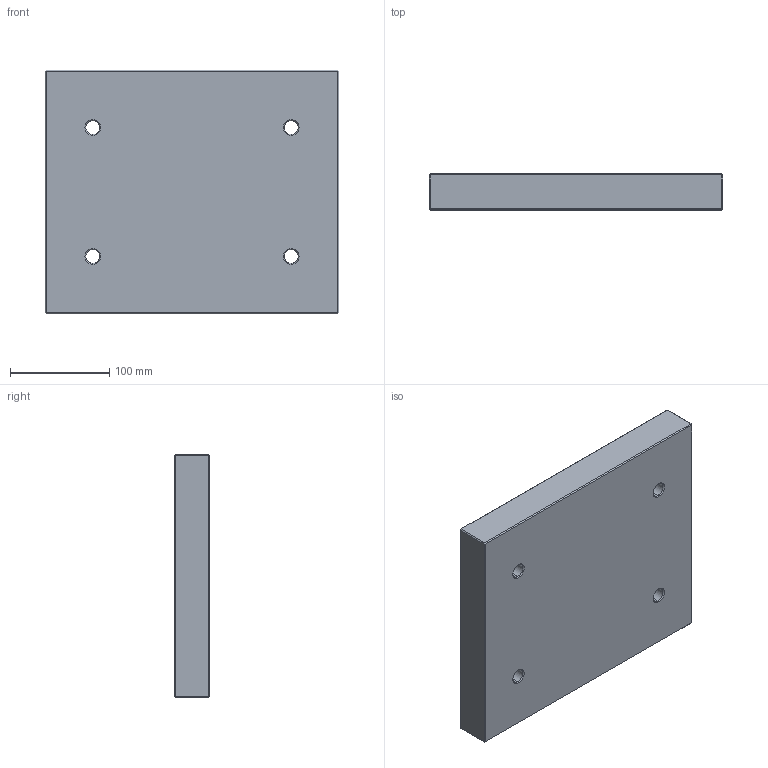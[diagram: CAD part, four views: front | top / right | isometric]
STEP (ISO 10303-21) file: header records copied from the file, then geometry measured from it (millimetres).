
FILE_DESCRIPTION (( 'STEP AP214' ), '1' );
FILE_NAME ('246x246x36.STEP', '2020-03-09T17:39:05', ( 'August' ), ( '' ), 'SwSTEP 2.0', 'SolidWorks 2018', '' );
FILE_SCHEMA (( 'AUTOMOTIVE_DESIGN' ));
Length unit declared in the file: millimetre
Products named in the file (1): 246x246x36
Bounding box: 296 x 36 x 246 mm (x, y, z)
Volume: 2588863.9 mm3; surface area: 189216.3 mm2
Topology: 1 solids, 1 shells, 62 faces, 128 edges, 72 vertices
Faces by surface type: plane 30, cone 16, cylinder 16
Entity records: 1650 total; most frequent: DIRECTION 302, CARTESIAN_POINT 263, ORIENTED_EDGE 256, EDGE_CURVE 128, AXIS2_PLACEMENT_3D 111, VECTOR 80, LINE 80, EDGE_LOOP 74
